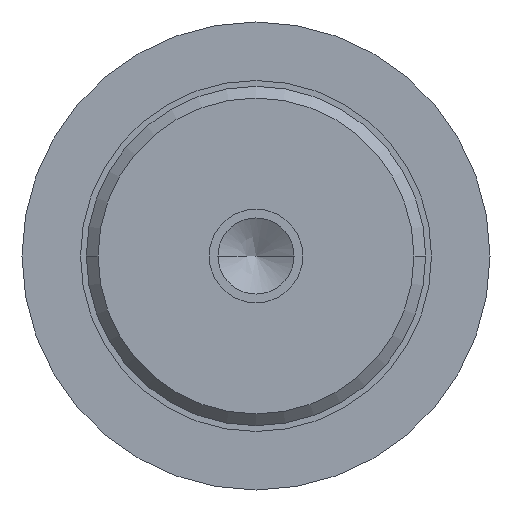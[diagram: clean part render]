
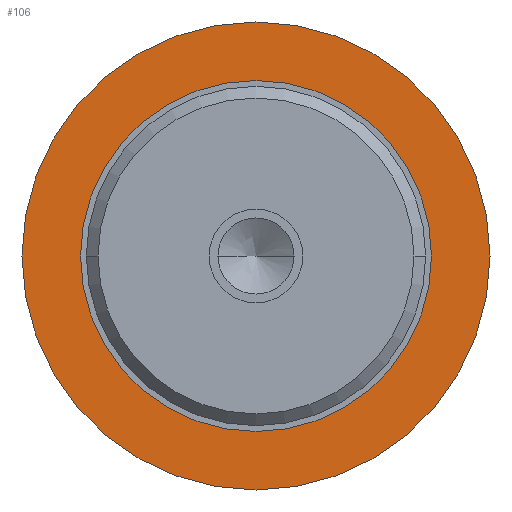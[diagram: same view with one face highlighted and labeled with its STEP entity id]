
A CAD part, left-side view. The second image highlights one B-rep face of the part: STEP entity #106.
In plain terms, the highlighted free-form (B-spline) face has degree [1, 1] with [2, 2] control points.
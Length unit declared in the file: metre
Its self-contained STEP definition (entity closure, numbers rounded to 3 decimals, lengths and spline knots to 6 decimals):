
#106 = ADVANCED_FACE( '', ( #182, #183 ), #184, .F. );
#182 = FACE_BOUND( '', #352, .T. );
#183 = FACE_OUTER_BOUND( '', #353, .T. );
#184 = B_SPLINE_SURFACE_WITH_KNOTS( '', 1, 1, ( ( #354, #355 ), ( #356, #357 ) ), .UNSPECIFIED., .F., .F., .F., ( 2, 2 ), ( 2, 2 ), ( 0., 1. ), ( 0., 1. ), .UNSPECIFIED. );
#352 = EDGE_LOOP( '', ( #587, #588 ) );
#353 = EDGE_LOOP( '', ( #589, #590 ) );
#354 = CARTESIAN_POINT( '', ( 0.037, -0.02024, -0.02024 ) );
#355 = CARTESIAN_POINT( '', ( 0.037, -0.02024, 0.02024 ) );
#356 = CARTESIAN_POINT( '', ( 0.037, 0.02024, -0.02024 ) );
#357 = CARTESIAN_POINT( '', ( 0.037, 0.02024, 0.02024 ) );
#587 = ORIENTED_EDGE( '', *, *, #710, .T. );
#588 = ORIENTED_EDGE( '', *, *, #708, .T. );
#589 = ORIENTED_EDGE( '', *, *, #715, .F. );
#590 = ORIENTED_EDGE( '', *, *, #712, .F. );
#708 = EDGE_CURVE( '', #814, #818, #820, .F. );
#710 = EDGE_CURVE( '', #818, #814, #822, .F. );
#712 = EDGE_CURVE( '', #823, #826, #827, .F. );
#715 = EDGE_CURVE( '', #826, #823, #831, .F. );
#814 = VERTEX_POINT( '', #956 );
#818 = VERTEX_POINT( '', #961 );
#820 = CIRCLE( '', #964, 0.0145 );
#822 = CIRCLE( '', #966, 0.0145 );
#823 = VERTEX_POINT( '', #967 );
#826 = VERTEX_POINT( '', #971 );
#827 = CIRCLE( '', #972, 0.02 );
#831 = CIRCLE( '', #977, 0.02 );
#956 = CARTESIAN_POINT( '', ( 0.037, 0.0145, 0. ) );
#961 = CARTESIAN_POINT( '', ( 0.037, -0.0145, 0. ) );
#964 = AXIS2_PLACEMENT_3D( '', #1126, #1127, #1128 );
#966 = AXIS2_PLACEMENT_3D( '', #1132, #1133, #1134 );
#967 = CARTESIAN_POINT( '', ( 0.037, 0.02, 0. ) );
#971 = CARTESIAN_POINT( '', ( 0.037, -0.02, 0. ) );
#972 = AXIS2_PLACEMENT_3D( '', #1136, #1137, #1138 );
#977 = AXIS2_PLACEMENT_3D( '', #1143, #1144, #1145 );
#1126 = CARTESIAN_POINT( '', ( 0.037, 0., 0. ) );
#1127 = DIRECTION( '', ( -1., 0., 0. ) );
#1128 = DIRECTION( '', ( 0., -1., 0. ) );
#1132 = CARTESIAN_POINT( '', ( 0.037, 0., 0. ) );
#1133 = DIRECTION( '', ( -1., 0., 0. ) );
#1134 = DIRECTION( '', ( 0., -1., 0. ) );
#1136 = CARTESIAN_POINT( '', ( 0.037, 0., 0. ) );
#1137 = DIRECTION( '', ( -1., 0., 0. ) );
#1138 = DIRECTION( '', ( 0., -1., 0. ) );
#1143 = CARTESIAN_POINT( '', ( 0.037, 0., 0. ) );
#1144 = DIRECTION( '', ( -1., 0., 0. ) );
#1145 = DIRECTION( '', ( 0., -1., 0. ) );
